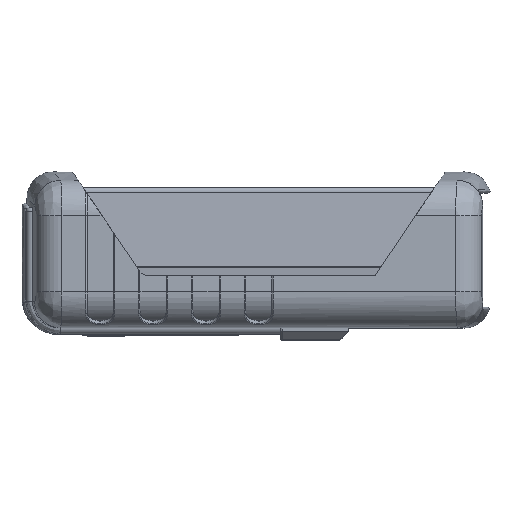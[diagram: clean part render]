
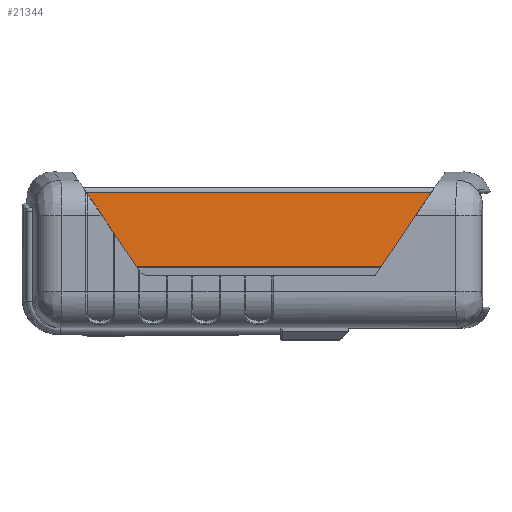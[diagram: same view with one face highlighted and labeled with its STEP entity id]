
A CAD part, top view. The second image highlights one B-rep face of the part: STEP entity #21344.
In plain terms, the highlighted planar face has unit normal (0, 0.052, 0.999) as drawn and (0, -0.052, -0.999) by its records, which use the part's own axes.
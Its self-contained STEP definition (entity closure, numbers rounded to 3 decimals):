
#51 = VECTOR ( 'NONE', #23751, 1000. ) ;
#382 = CARTESIAN_POINT ( 'NONE',  ( -56.503, 0., -34.5 ) ) ;
#1215 = EDGE_CURVE ( 'NONE', #21115, #3197, #1245, .T. ) ;
#1245 = LINE ( 'NONE', #9191, #17839 ) ;
#2566 = LINE ( 'NONE', #16779, #7612 ) ;
#2911 = ORIENTED_EDGE ( 'NONE', *, *, #27320, .T. ) ;
#3197 = VERTEX_POINT ( 'NONE', #382 ) ;
#3877 = CARTESIAN_POINT ( 'NONE',  ( -58.5, 0., -34.5 ) ) ;
#6152 = VERTEX_POINT ( 'NONE', #8651 ) ;
#6515 = LINE ( 'NONE', #15124, #51 ) ;
#7458 = ORIENTED_EDGE ( 'NONE', *, *, #1215, .T. ) ;
#7612 = VECTOR ( 'NONE', #21131, 1000. ) ;
#8651 = CARTESIAN_POINT ( 'NONE',  ( 55.309, -22.779, -33.306 ) ) ;
#9191 = CARTESIAN_POINT ( 'NONE',  ( -56.508, 0.104, -34.505 ) ) ;
#10418 = DIRECTION ( 'NONE',  ( 0., 0.999, -0.052 ) ) ;
#11754 = EDGE_LOOP ( 'NONE', ( #24737, #7458, #16523, #2911 ) ) ;
#11770 = LINE ( 'NONE', #13692, #22616 ) ;
#12499 = VERTEX_POINT ( 'NONE', #18846 ) ;
#13239 = EDGE_CURVE ( 'NONE', #12499, #3197, #2566, .T. ) ;
#13503 = AXIS2_PLACEMENT_3D ( 'NONE', #3877, #23385, #10418 ) ;
#13692 = CARTESIAN_POINT ( 'NONE',  ( -57.232, -22.779, -33.306 ) ) ;
#15124 = CARTESIAN_POINT ( 'NONE',  ( 56.189, -5.994, -34.186 ) ) ;
#16523 = ORIENTED_EDGE ( 'NONE', *, *, #13239, .F. ) ;
#16779 = CARTESIAN_POINT ( 'NONE',  ( -58.5, 0., -34.5 ) ) ;
#17839 = VECTOR ( 'NONE', #17890, 1000. ) ;
#17890 = DIRECTION ( 'NONE',  ( -0.052, 0.997, -0.052 ) ) ;
#18846 = CARTESIAN_POINT ( 'NONE',  ( 56.503, 0., -34.5 ) ) ;
#21115 = VERTEX_POINT ( 'NONE', #24933 ) ;
#21131 = DIRECTION ( 'NONE',  ( -1., 0., 0. ) ) ;
#21344 = ADVANCED_FACE ( 'NONE', ( #21405 ), #27628, .T. ) ;
#21405 = FACE_OUTER_BOUND ( 'NONE', #11754, .T. ) ;
#22616 = VECTOR ( 'NONE', #24501, 1000. ) ;
#23385 = DIRECTION ( 'NONE',  ( 0., -0.052, -0.999 ) ) ;
#23751 = DIRECTION ( 'NONE',  ( -0.052, -0.997, 0.052 ) ) ;
#24078 = EDGE_CURVE ( 'NONE', #6152, #21115, #11770, .T. ) ;
#24501 = DIRECTION ( 'NONE',  ( -1., 0., 0. ) ) ;
#24737 = ORIENTED_EDGE ( 'NONE', *, *, #24078, .T. ) ;
#24933 = CARTESIAN_POINT ( 'NONE',  ( -55.309, -22.779, -33.306 ) ) ;
#27320 = EDGE_CURVE ( 'NONE', #12499, #6152, #6515, .T. ) ;
#27628 = PLANE ( 'NONE',  #13503 ) ;
